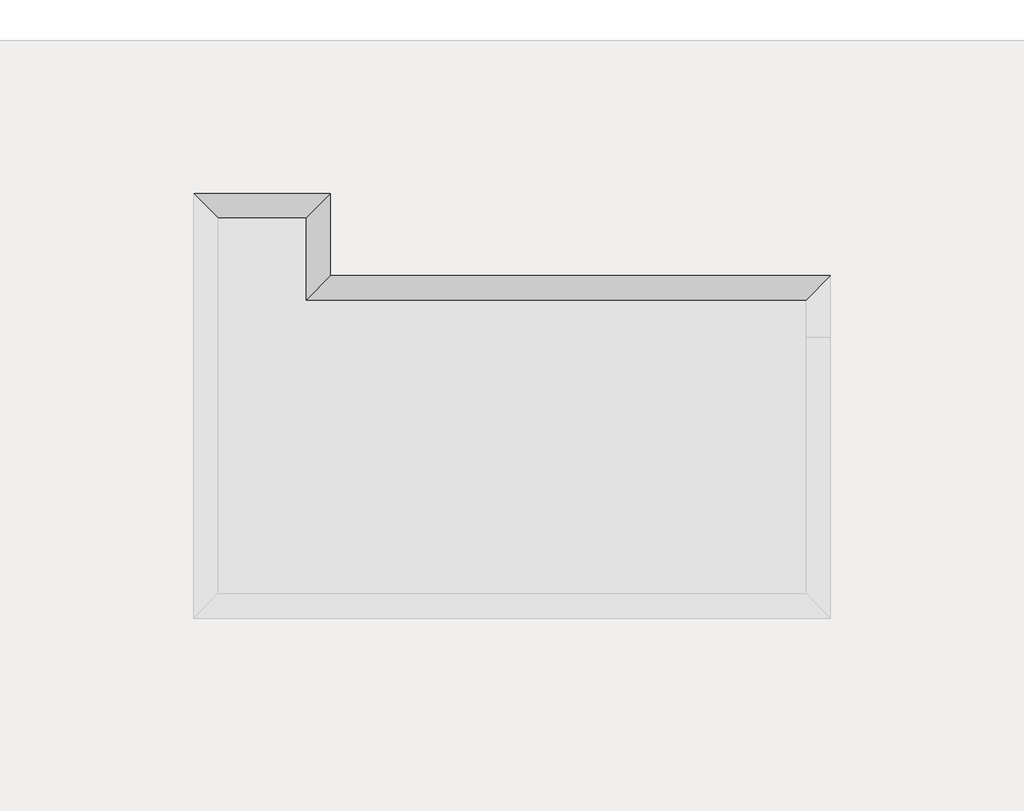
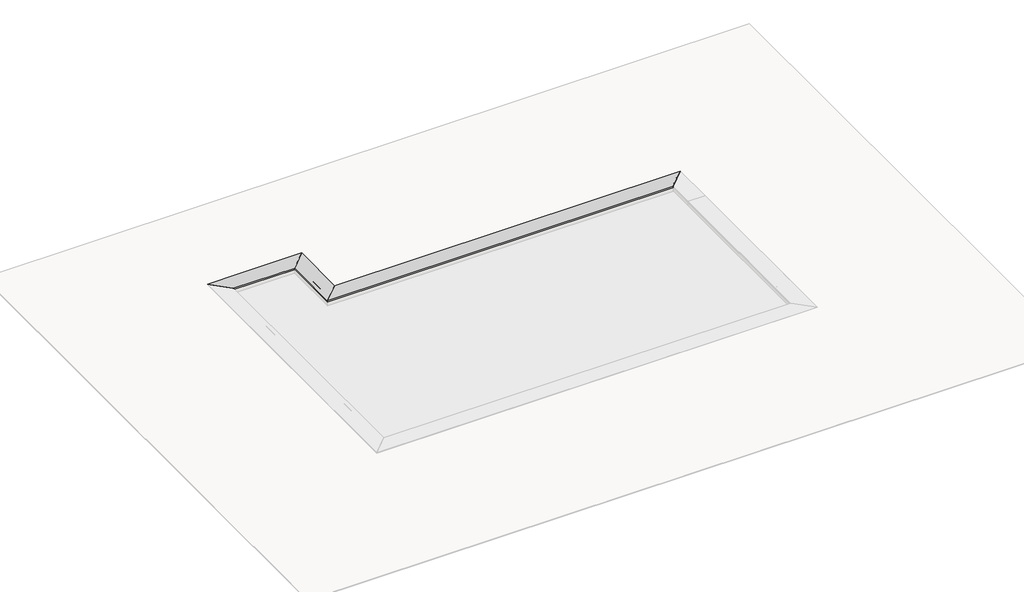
# One storey, part 4 of 5: 6 proxies.
"""IFC4 building model written with IfcOpenShell, lengths in millimetres."""

from ifc_helpers import new_model, si_unit, origin, place, context, project, spatial, faceted_brep, element, save

model = new_model("IFC4")

# Units and contexts
model_context = context("Model", 3, world=origin())
ifc_project = project(units=[si_unit("LENGTHUNIT", "METRE", prefix="MILLI")], contexts=[model_context])

# Site, building, storey
site = spatial("IfcSite", under=ifc_project)
building = spatial("IfcBuilding", under=site)
storey = spatial("IfcBuildingStorey", under=building, Name="EXAGRES_MILAN Series_Pool_Examples", Elevation=0.0)

# Proxies
placement = place(None, origin())
element("IfcBuildingElementProxy", 1, Name="Wall Sweeps", at=placement, inside=storey, context=model_context, shape_type="Brep", body=[
    faceted_brep([(12442.6707532, -9626.7035945, 0.0), (12429.6707532, -9639.7035945, 0.0), (12429.6707532, -9639.7035945, 33.0), (12759.6707532, -9309.7035945, 33.0), (12759.6707532, -9309.7035945, 21.0), (12753.6707532, -9315.7035945, 21.0), (12753.6707532, -9315.7035945, 22.0), (12749.6707532, -9319.7035945, 22.0), (12749.6707532, -9319.7035945, 21.0), (12743.6707532, -9325.7035945, 21.0), (12743.6707532, -9325.7035945, 22.0), (12739.6707532, -9329.7035945, 22.0), (12739.6707532, -9329.7035945, 21.0), (12733.6707532, -9335.7035945, 21.0), (12733.6707532, -9335.7035945, 22.0), (12729.6707532, -9339.7035945, 22.0), (12729.6707532, -9339.7035945, 21.0), (12723.6707532, -9345.7035945, 21.0), (12723.6707532, -9345.7035945, 22.0), (12719.6707532, -9349.7035945, 22.0), (12719.6707532, -9349.7035945, 21.0), (12713.6707532, -9355.7035945, 21.0), (12713.6707532, -9355.7035945, 22.0), (12709.6707532, -9359.7035945, 22.0), (12709.6707532, -9359.7035945, 21.0), (12703.6707532, -9365.7035945, 21.0), (12703.6707532, -9365.7035945, 22.0), (12699.6707532, -9369.7035945, 22.0), (12699.6707532, -9369.7035945, 21.0), (12693.6707532, -9375.7035945, 21.0), (12693.6707532, -9375.7035945, 22.0), (12689.6707532, -9379.7035945, 22.0), (12689.6707532, -9379.7035945, 21.0), (12683.6707532, -9385.7035945, 21.0), (12683.6707532, -9385.7035945, 22.0), (12679.6707532, -9389.7035945, 22.0), (12679.6707532, -9389.7035945, 21.0), (12673.6707532, -9395.7035945, 21.0), (12673.6707532, -9395.7035945, 22.0), (12669.6707532, -9399.7035945, 22.0), (12669.6707532, -9399.7035945, 21.0), (12663.6707532, -9405.7035945, 21.0), (12663.6707532, -9405.7035945, 22.0), (12659.6707532, -9409.7035945, 22.0), (12659.6707532, -9409.7035945, 21.0), (12653.6707532, -9415.7035945, 21.0), (12653.6707532, -9415.7035945, 22.0), (12649.6707532, -9419.7035945, 22.0), (12649.6707532, -9419.7035945, 21.0), (12643.6707532, -9425.7035945, 21.0), (12643.6707532, -9425.7035945, 22.0), (12639.6707532, -9429.7035945, 22.0), (12639.6707532, -9429.7035945, 21.0), (12633.6707532, -9435.7035945, 21.0), (12633.6707532, -9435.7035945, 22.0), (12629.6707532, -9439.7035945, 22.0), (12629.6707532, -9439.7035945, 21.0), (12623.6707532, -9445.7035945, 21.0), (12623.6707532, -9445.7035945, 22.0), (12619.6707532, -9449.7035945, 22.0), (12619.6707532, -9449.7035945, 21.0), (12613.6707532, -9455.7035945, 21.0), (12613.6707532, -9455.7035945, 22.0), (12609.6707532, -9459.7035945, 22.0), (12609.6707532, -9459.7035945, 21.0), (12603.6707532, -9465.7035945, 21.0), (12603.6707532, -9465.7035945, 22.0), (12599.6707532, -9469.7035945, 22.0), (12599.6707532, -9469.7035945, 21.0), (12593.6707532, -9475.7035945, 21.0), (12593.6707532, -9475.7035945, 22.0), (12589.6707532, -9479.7035945, 22.0), (12589.6707532, -9479.7035945, 21.0), (12583.6707532, -9485.7035945, 21.0), (12583.6707532, -9485.7035945, 22.0), (12579.6707532, -9489.7035945, 22.0), (12579.6707532, -9489.7035945, 21.0), (12573.6707532, -9495.7035945, 21.0), (12573.6707532, -9495.7035945, 22.0), (12569.6707532, -9499.7035945, 22.0), (12569.6707532, -9499.7035945, 21.0), (12563.6707532, -9505.7035945, 21.0), (12563.6707532, -9505.7035945, 22.0), (12559.6707532, -9509.7035945, 22.0), (12559.6707532, -9509.7035945, 21.0), (12553.6707532, -9515.7035945, 21.0), (12553.6707532, -9515.7035945, 22.0), (12549.6707532, -9519.7035945, 22.0), (12549.6707532, -9519.7035945, 21.0), (12543.6707532, -9525.7035945, 21.0), (12543.6707532, -9525.7035945, 22.0), (12539.6707532, -9529.7035945, 22.0), (12539.6707532, -9529.7035945, 21.0), (12533.6707532, -9535.7035945, 21.0), (12533.6707532, -9535.7035945, 22.0), (12529.6707532, -9539.7035945, 22.0), (12529.6707532, -9539.7035945, 21.0), (12523.6707532, -9545.7035945, 21.0), (12523.6707532, -9545.7035945, 22.0), (12519.6707532, -9549.7035945, 22.0), (12519.6707532, -9549.7035945, 21.0), (12513.6707532, -9555.7035945, 21.0), (12513.6707532, -9555.7035945, 22.0), (12509.6707532, -9559.7035945, 22.0), (12509.6707532, -9559.7035945, 21.0), (12503.6707532, -9565.7035945, 21.0), (12503.6707532, -9565.7035945, 22.0), (12499.6707532, -9569.7035945, 22.0), (12499.6707532, -9569.7035945, 21.0), (12493.6707532, -9575.7035945, 21.0), (12493.6707532, -9575.7035945, 22.0), (12489.6707532, -9579.7035945, 22.0), (12489.6707532, -9579.7035945, 21.0), (12483.6707532, -9585.7035945, 21.0), (12483.6707532, -9585.7035945, 22.0), (12479.6707532, -9589.7035945, 22.0), (12479.6707532, -9589.7035945, 21.0), (12473.6707532, -9595.7035945, 21.0), (12473.6707532, -9595.7035945, 22.0), (12469.6707532, -9599.7035945, 22.0), (12469.6707532, -9599.7035945, 21.0), (12463.6707532, -9605.7035945, 21.0), (12463.6707532, -9605.7035945, 22.0), (12459.6707532, -9609.7035945, 22.0), (12459.6707532, -9609.7035945, 21.0), (12453.6707532, -9615.7035945, 21.0), (12453.6707532, -9615.7035945, 22.0), (12449.6707532, -9619.7035945, 22.0), (12449.6707532, -9619.7035945, 21.0), (12442.6707532, -9626.7035945, 21.0), (12442.6707532, -9626.7035945, 14.0), (12441.6707532, -9627.7035945, 14.0), (12441.6707532, -9627.7035945, 8.0), (12442.6707532, -9626.7035945, 8.0), (19242.6707532, -9626.7035945, 0.0), (19242.6707532, -9626.7035945, 8.0), (19241.6707532, -9627.7035945, 8.0), (19241.6707532, -9627.7035945, 14.0), (19242.6707532, -9626.7035945, 14.0), (19242.6707532, -9626.7035945, 21.0), (19249.6707532, -9619.7035945, 21.0), (19249.6707532, -9619.7035945, 22.0), (19253.6707532, -9615.7035945, 22.0), (19253.6707532, -9615.7035945, 21.0), (19259.6707532, -9609.7035945, 21.0), (19259.6707532, -9609.7035945, 22.0), (19263.6707532, -9605.7035945, 22.0), (19263.6707532, -9605.7035945, 21.0), (19269.6707532, -9599.7035945, 21.0), (19269.6707532, -9599.7035945, 22.0), (19273.6707532, -9595.7035945, 22.0), (19273.6707532, -9595.7035945, 21.0), (19279.6707532, -9589.7035945, 21.0), (19279.6707532, -9589.7035945, 22.0), (19283.6707532, -9585.7035945, 22.0), (19283.6707532, -9585.7035945, 21.0), (19289.6707532, -9579.7035945, 21.0), (19289.6707532, -9579.7035945, 22.0), (19293.6707532, -9575.7035945, 22.0), (19293.6707532, -9575.7035945, 21.0), (19299.6707532, -9569.7035945, 21.0), (19299.6707532, -9569.7035945, 22.0), (19303.6707532, -9565.7035945, 22.0), (19303.6707532, -9565.7035945, 21.0), (19309.6707532, -9559.7035945, 21.0), (19309.6707532, -9559.7035945, 22.0), (19313.6707532, -9555.7035945, 22.0), (19313.6707532, -9555.7035945, 21.0), (19319.6707532, -9549.7035945, 21.0), (19319.6707532, -9549.7035945, 22.0), (19323.6707532, -9545.7035945, 22.0), (19323.6707532, -9545.7035945, 21.0), (19329.6707532, -9539.7035945, 21.0), (19329.6707532, -9539.7035945, 22.0), (19333.6707532, -9535.7035945, 22.0), (19333.6707532, -9535.7035945, 21.0), (19339.6707532, -9529.7035945, 21.0), (19339.6707532, -9529.7035945, 22.0), (19343.6707532, -9525.7035945, 22.0), (19343.6707532, -9525.7035945, 21.0), (19349.6707532, -9519.7035945, 21.0), (19349.6707532, -9519.7035945, 22.0), (19353.6707532, -9515.7035945, 22.0), (19353.6707532, -9515.7035945, 21.0), (19359.6707532, -9509.7035945, 21.0), (19359.6707532, -9509.7035945, 22.0), (19363.6707532, -9505.7035945, 22.0), (19363.6707532, -9505.7035945, 21.0), (19369.6707532, -9499.7035945, 21.0), (19369.6707532, -9499.7035945, 22.0), (19373.6707532, -9495.7035945, 22.0), (19373.6707532, -9495.7035945, 21.0), (19379.6707532, -9489.7035945, 21.0), (19379.6707532, -9489.7035945, 22.0), (19383.6707532, -9485.7035945, 22.0), (19383.6707532, -9485.7035945, 21.0), (19389.6707532, -9479.7035945, 21.0), (19389.6707532, -9479.7035945, 22.0), (19393.6707532, -9475.7035945, 22.0), (19393.6707532, -9475.7035945, 21.0), (19399.6707532, -9469.7035945, 21.0), (19399.6707532, -9469.7035945, 22.0), (19403.6707532, -9465.7035945, 22.0), (19403.6707532, -9465.7035945, 21.0), (19409.6707532, -9459.7035945, 21.0), (19409.6707532, -9459.7035945, 22.0), (19413.6707532, -9455.7035945, 22.0), (19413.6707532, -9455.7035945, 21.0), (19419.6707532, -9449.7035945, 21.0), (19419.6707532, -9449.7035945, 22.0), (19423.6707532, -9445.7035945, 22.0), (19423.6707532, -9445.7035945, 21.0), (19429.6707532, -9439.7035945, 21.0), (19429.6707532, -9439.7035945, 22.0), (19433.6707532, -9435.7035945, 22.0), (19433.6707532, -9435.7035945, 21.0), (19439.6707532, -9429.7035945, 21.0), (19439.6707532, -9429.7035945, 22.0), (19443.6707532, -9425.7035945, 22.0), (19443.6707532, -9425.7035945, 21.0), (19449.6707532, -9419.7035945, 21.0), (19449.6707532, -9419.7035945, 22.0), (19453.6707532, -9415.7035945, 22.0), (19453.6707532, -9415.7035945, 21.0), (19459.6707532, -9409.7035945, 21.0), (19459.6707532, -9409.7035945, 22.0), (19463.6707532, -9405.7035945, 22.0), (19463.6707532, -9405.7035945, 21.0), (19469.6707532, -9399.7035945, 21.0), (19469.6707532, -9399.7035945, 22.0), (19473.6707532, -9395.7035945, 22.0), (19473.6707532, -9395.7035945, 21.0), (19479.6707532, -9389.7035945, 21.0), (19479.6707532, -9389.7035945, 22.0), (19483.6707532, -9385.7035945, 22.0), (19483.6707532, -9385.7035945, 21.0), (19489.6707532, -9379.7035945, 21.0), (19489.6707532, -9379.7035945, 22.0), (19493.6707532, -9375.7035945, 22.0), (19493.6707532, -9375.7035945, 21.0), (19499.6707532, -9369.7035945, 21.0), (19499.6707532, -9369.7035945, 22.0), (19503.6707532, -9365.7035945, 22.0), (19503.6707532, -9365.7035945, 21.0), (19509.6707532, -9359.7035945, 21.0), (19509.6707532, -9359.7035945, 22.0), (19513.6707532, -9355.7035945, 22.0), (19513.6707532, -9355.7035945, 21.0), (19519.6707532, -9349.7035945, 21.0), (19519.6707532, -9349.7035945, 22.0), (19523.6707532, -9345.7035945, 22.0), (19523.6707532, -9345.7035945, 21.0), (19529.6707532, -9339.7035945, 21.0), (19529.6707532, -9339.7035945, 22.0), (19533.6707532, -9335.7035945, 22.0), (19533.6707532, -9335.7035945, 21.0), (19539.6707532, -9329.7035945, 21.0), (19539.6707532, -9329.7035945, 22.0), (19543.6707532, -9325.7035945, 22.0), (19543.6707532, -9325.7035945, 21.0), (19549.6707532, -9319.7035945, 21.0), (19549.6707532, -9319.7035945, 22.0), (19553.6707532, -9315.7035945, 22.0), (19553.6707532, -9315.7035945, 21.0), (19559.6707532, -9309.7035945, 21.0), (19559.6707532, -9309.7035945, 33.0), (19229.6707532, -9639.7035945, 33.0), (19229.6707532, -9639.7035945, 0.0)], [[[0, 1, 2, 3, 4, 5, 6, 7, 8, 9, 10, 11, 12, 13, 14, 15, 16, 17, 18, 19, 20, 21, 22, 23, 24, 25, 26, 27, 28, 29, 30, 31, 32, 33, 34, 35, 36, 37, 38, 39, 40, 41, 42, 43, 44, 45, 46, 47, 48, 49, 50, 51, 52, 53, 54, 55, 56, 57, 58, 59, 60, 61, 62, 63, 64, 65, 66, 67, 68, 69, 70, 71, 72, 73, 74, 75, 76, 77, 78, 79, 80, 81, 82, 83, 84, 85, 86, 87, 88, 89, 90, 91, 92, 93, 94, 95, 96, 97, 98, 99, 100, 101, 102, 103, 104, 105, 106, 107, 108, 109, 110, 111, 112, 113, 114, 115, 116, 117, 118, 119, 120, 121, 122, 123, 124, 125, 126, 127, 128, 129, 130, 131, 132, 133]], [[134, 135, 136, 137, 138, 139, 140, 141, 142, 143, 144, 145, 146, 147, 148, 149, 150, 151, 152, 153, 154, 155, 156, 157, 158, 159, 160, 161, 162, 163, 164, 165, 166, 167, 168, 169, 170, 171, 172, 173, 174, 175, 176, 177, 178, 179, 180, 181, 182, 183, 184, 185, 186, 187, 188, 189, 190, 191, 192, 193, 194, 195, 196, 197, 198, 199, 200, 201, 202, 203, 204, 205, 206, 207, 208, 209, 210, 211, 212, 213, 214, 215, 216, 217, 218, 219, 220, 221, 222, 223, 224, 225, 226, 227, 228, 229, 230, 231, 232, 233, 234, 235, 236, 237, 238, 239, 240, 241, 242, 243, 244, 245, 246, 247, 248, 249, 250, 251, 252, 253, 254, 255, 256, 257, 258, 259, 260, 261, 262, 263, 264, 265, 266, 267]], [[1, 0, 134, 267]], [[2, 1, 267, 266]], [[3, 2, 266, 265]], [[4, 3, 265, 264]], [[5, 4, 264, 263]], [[6, 5, 263, 262]], [[7, 6, 262, 261]], [[8, 7, 261, 260]], [[9, 8, 260, 259]], [[10, 9, 259, 258]], [[11, 10, 258, 257]], [[12, 11, 257, 256]], [[13, 12, 256, 255]], [[14, 13, 255, 254]], [[15, 14, 254, 253]], [[16, 15, 253, 252]], [[17, 16, 252, 251]], [[18, 17, 251, 250]], [[19, 18, 250, 249]], [[20, 19, 249, 248]], [[21, 20, 248, 247]], [[22, 21, 247, 246]], [[23, 22, 246, 245]], [[24, 23, 245, 244]], [[25, 24, 244, 243]], [[26, 25, 243, 242]], [[27, 26, 242, 241]], [[28, 27, 241, 240]], [[29, 28, 240, 239]], [[30, 29, 239, 238]], [[31, 30, 238, 237]], [[32, 31, 237, 236]], [[33, 32, 236, 235]], [[34, 33, 235, 234]], [[35, 34, 234, 233]], [[36, 35, 233, 232]], [[37, 36, 232, 231]], [[38, 37, 231, 230]], [[39, 38, 230, 229]], [[40, 39, 229, 228]], [[41, 40, 228, 227]], [[42, 41, 227, 226]], [[43, 42, 226, 225]], [[44, 43, 225, 224]], [[45, 44, 224, 223]], [[46, 45, 223, 222]], [[47, 46, 222, 221]], [[48, 47, 221, 220]], [[49, 48, 220, 219]], [[50, 49, 219, 218]], [[51, 50, 218, 217]], [[52, 51, 217, 216]], [[53, 52, 216, 215]], [[54, 53, 215, 214]], [[55, 54, 214, 213]], [[56, 55, 213, 212]], [[57, 56, 212, 211]], [[58, 57, 211, 210]], [[59, 58, 210, 209]], [[60, 59, 209, 208]], [[61, 60, 208, 207]], [[62, 61, 207, 206]], [[63, 62, 206, 205]], [[64, 63, 205, 204]], [[65, 64, 204, 203]], [[66, 65, 203, 202]], [[67, 66, 202, 201]], [[68, 67, 201, 200]], [[69, 68, 200, 199]], [[70, 69, 199, 198]], [[71, 70, 198, 197]], [[72, 71, 197, 196]], [[73, 72, 196, 195]], [[74, 73, 195, 194]], [[75, 74, 194, 193]], [[76, 75, 193, 192]], [[77, 76, 192, 191]], [[78, 77, 191, 190]], [[79, 78, 190, 189]], [[80, 79, 189, 188]], [[81, 80, 188, 187]], [[82, 81, 187, 186]], [[83, 82, 186, 185]], [[84, 83, 185, 184]], [[85, 84, 184, 183]], [[86, 85, 183, 182]], [[87, 86, 182, 181]], [[88, 87, 181, 180]], [[89, 88, 180, 179]], [[90, 89, 179, 178]], [[91, 90, 178, 177]], [[92, 91, 177, 176]], [[93, 92, 176, 175]], [[94, 93, 175, 174]], [[95, 94, 174, 173]], [[96, 95, 173, 172]], [[97, 96, 172, 171]], [[98, 97, 171, 170]], [[99, 98, 170, 169]], [[100, 99, 169, 168]], [[101, 100, 168, 167]], [[102, 101, 167, 166]], [[103, 102, 166, 165]], [[104, 103, 165, 164]], [[105, 104, 164, 163]], [[106, 105, 163, 162]], [[107, 106, 162, 161]], [[108, 107, 161, 160]], [[109, 108, 160, 159]], [[110, 109, 159, 158]], [[111, 110, 158, 157]], [[112, 111, 157, 156]], [[113, 112, 156, 155]], [[114, 113, 155, 154]], [[115, 114, 154, 153]], [[116, 115, 153, 152]], [[117, 116, 152, 151]], [[118, 117, 151, 150]], [[119, 118, 150, 149]], [[120, 119, 149, 148]], [[121, 120, 148, 147]], [[122, 121, 147, 146]], [[123, 122, 146, 145]], [[124, 123, 145, 144]], [[125, 124, 144, 143]], [[126, 125, 143, 142]], [[127, 126, 142, 141]], [[128, 127, 141, 140]], [[129, 128, 140, 139]], [[130, 129, 139, 138]], [[131, 130, 138, 137]], [[132, 131, 137, 136]], [[133, 132, 136, 135]], [[0, 133, 135, 134]]]),
])
element("IfcBuildingElementProxy", 2, Name="Wall Sweeps", at=placement, inside=storey, context=model_context, shape_type="Brep", body=[
    faceted_brep([(10909.6707532, -13959.7035945, -181.26), (11004.6707532, -13864.7035945, -181.26), (11214.6707532, -13654.7035945, -181.26), (11214.6707532, -13654.7035945, 0.0), (11214.6707532, -13654.7035945, 18.74), (10909.6707532, -13959.7035945, 18.74), (10909.6707532, -8199.7035945, -181.26), (10909.6707532, -8199.7035945, 18.74), (11214.6707532, -8504.7035945, 18.74), (11214.6707532, -8504.7035945, 0.0), (11214.6707532, -8504.7035945, -181.26), (11004.6707532, -8294.7035945, -181.26)], [[[0, 1, 2, 3, 4, 5]], [[6, 7, 8, 9, 10, 11]], [[4, 3, 2, 10, 9, 8]], [[2, 1, 0, 6, 11, 10]], [[5, 4, 8, 7]], [[0, 5, 7, 6]]]),
])
element("IfcBuildingElementProxy", 3, Name="Wall Sweeps", at=placement, inside=storey, context=model_context, shape_type="Brep", body=[
    faceted_brep([(12442.6707532, -9626.7035945, 0.0), (12442.6707532, -9626.7035945, 8.0), (12441.6707532, -9627.7035945, 8.0), (12441.6707532, -9627.7035945, 14.0), (12442.6707532, -9626.7035945, 14.0), (12442.6707532, -9626.7035945, 21.0), (12449.6707532, -9619.7035945, 21.0), (12449.6707532, -9619.7035945, 22.0), (12453.6707532, -9615.7035945, 22.0), (12453.6707532, -9615.7035945, 21.0), (12459.6707532, -9609.7035945, 21.0), (12459.6707532, -9609.7035945, 22.0), (12463.6707532, -9605.7035945, 22.0), (12463.6707532, -9605.7035945, 21.0), (12469.6707532, -9599.7035945, 21.0), (12469.6707532, -9599.7035945, 22.0), (12473.6707532, -9595.7035945, 22.0), (12473.6707532, -9595.7035945, 21.0), (12479.6707532, -9589.7035945, 21.0), (12479.6707532, -9589.7035945, 22.0), (12483.6707532, -9585.7035945, 22.0), (12483.6707532, -9585.7035945, 21.0), (12489.6707532, -9579.7035945, 21.0), (12489.6707532, -9579.7035945, 22.0), (12493.6707532, -9575.7035945, 22.0), (12493.6707532, -9575.7035945, 21.0), (12499.6707532, -9569.7035945, 21.0), (12499.6707532, -9569.7035945, 22.0), (12503.6707532, -9565.7035945, 22.0), (12503.6707532, -9565.7035945, 21.0), (12509.6707532, -9559.7035945, 21.0), (12509.6707532, -9559.7035945, 22.0), (12513.6707532, -9555.7035945, 22.0), (12513.6707532, -9555.7035945, 21.0), (12519.6707532, -9549.7035945, 21.0), (12519.6707532, -9549.7035945, 22.0), (12523.6707532, -9545.7035945, 22.0), (12523.6707532, -9545.7035945, 21.0), (12529.6707532, -9539.7035945, 21.0), (12529.6707532, -9539.7035945, 22.0), (12533.6707532, -9535.7035945, 22.0), (12533.6707532, -9535.7035945, 21.0), (12539.6707532, -9529.7035945, 21.0), (12539.6707532, -9529.7035945, 22.0), (12543.6707532, -9525.7035945, 22.0), (12543.6707532, -9525.7035945, 21.0), (12549.6707532, -9519.7035945, 21.0), (12549.6707532, -9519.7035945, 22.0), (12553.6707532, -9515.7035945, 22.0), (12553.6707532, -9515.7035945, 21.0), (12559.6707532, -9509.7035945, 21.0), (12559.6707532, -9509.7035945, 22.0), (12563.6707532, -9505.7035945, 22.0), (12563.6707532, -9505.7035945, 21.0), (12569.6707532, -9499.7035945, 21.0), (12569.6707532, -9499.7035945, 22.0), (12573.6707532, -9495.7035945, 22.0), (12573.6707532, -9495.7035945, 21.0), (12579.6707532, -9489.7035945, 21.0), (12579.6707532, -9489.7035945, 22.0), (12583.6707532, -9485.7035945, 22.0), (12583.6707532, -9485.7035945, 21.0), (12589.6707532, -9479.7035945, 21.0), (12589.6707532, -9479.7035945, 22.0), (12593.6707532, -9475.7035945, 22.0), (12593.6707532, -9475.7035945, 21.0), (12599.6707532, -9469.7035945, 21.0), (12599.6707532, -9469.7035945, 22.0), (12603.6707532, -9465.7035945, 22.0), (12603.6707532, -9465.7035945, 21.0), (12609.6707532, -9459.7035945, 21.0), (12609.6707532, -9459.7035945, 22.0), (12613.6707532, -9455.7035945, 22.0), (12613.6707532, -9455.7035945, 21.0), (12619.6707532, -9449.7035945, 21.0), (12619.6707532, -9449.7035945, 22.0), (12623.6707532, -9445.7035945, 22.0), (12623.6707532, -9445.7035945, 21.0), (12629.6707532, -9439.7035945, 21.0), (12629.6707532, -9439.7035945, 22.0), (12633.6707532, -9435.7035945, 22.0), (12633.6707532, -9435.7035945, 21.0), (12639.6707532, -9429.7035945, 21.0), (12639.6707532, -9429.7035945, 22.0), (12643.6707532, -9425.7035945, 22.0), (12643.6707532, -9425.7035945, 21.0), (12649.6707532, -9419.7035945, 21.0), (12649.6707532, -9419.7035945, 22.0), (12653.6707532, -9415.7035945, 22.0), (12653.6707532, -9415.7035945, 21.0), (12659.6707532, -9409.7035945, 21.0), (12659.6707532, -9409.7035945, 22.0), (12663.6707532, -9405.7035945, 22.0), (12663.6707532, -9405.7035945, 21.0), (12669.6707532, -9399.7035945, 21.0), (12669.6707532, -9399.7035945, 22.0), (12673.6707532, -9395.7035945, 22.0), (12673.6707532, -9395.7035945, 21.0), (12679.6707532, -9389.7035945, 21.0), (12679.6707532, -9389.7035945, 22.0), (12683.6707532, -9385.7035945, 22.0), (12683.6707532, -9385.7035945, 21.0), (12689.6707532, -9379.7035945, 21.0), (12689.6707532, -9379.7035945, 22.0), (12693.6707532, -9375.7035945, 22.0), (12693.6707532, -9375.7035945, 21.0), (12699.6707532, -9369.7035945, 21.0), (12699.6707532, -9369.7035945, 22.0), (12703.6707532, -9365.7035945, 22.0), (12703.6707532, -9365.7035945, 21.0), (12709.6707532, -9359.7035945, 21.0), (12709.6707532, -9359.7035945, 22.0), (12713.6707532, -9355.7035945, 22.0), (12713.6707532, -9355.7035945, 21.0), (12719.6707532, -9349.7035945, 21.0), (12719.6707532, -9349.7035945, 22.0), (12723.6707532, -9345.7035945, 22.0), (12723.6707532, -9345.7035945, 21.0), (12729.6707532, -9339.7035945, 21.0), (12729.6707532, -9339.7035945, 22.0), (12733.6707532, -9335.7035945, 22.0), (12733.6707532, -9335.7035945, 21.0), (12739.6707532, -9329.7035945, 21.0), (12739.6707532, -9329.7035945, 22.0), (12743.6707532, -9325.7035945, 22.0), (12743.6707532, -9325.7035945, 21.0), (12749.6707532, -9319.7035945, 21.0), (12749.6707532, -9319.7035945, 22.0), (12753.6707532, -9315.7035945, 22.0), (12753.6707532, -9315.7035945, 21.0), (12759.6707532, -9309.7035945, 21.0), (12759.6707532, -9309.7035945, 33.0), (12429.6707532, -9639.7035945, 33.0), (12429.6707532, -9639.7035945, 0.0), (12442.6707532, -8506.7035945, 0.0), (12429.6707532, -8519.7035945, 0.0), (12429.6707532, -8519.7035945, 33.0), (12759.6707532, -8189.7035945, 33.0), (12759.6707532, -8189.7035945, 21.0), (12753.6707532, -8195.7035945, 21.0), (12753.6707532, -8195.7035945, 22.0), (12749.6707532, -8199.7035945, 22.0), (12749.6707532, -8199.7035945, 21.0), (12743.6707532, -8205.7035945, 21.0), (12743.6707532, -8205.7035945, 22.0), (12739.6707532, -8209.7035945, 22.0), (12739.6707532, -8209.7035945, 21.0), (12733.6707532, -8215.7035945, 21.0), (12733.6707532, -8215.7035945, 22.0), (12729.6707532, -8219.7035945, 22.0), (12729.6707532, -8219.7035945, 21.0), (12723.6707532, -8225.7035945, 21.0), (12723.6707532, -8225.7035945, 22.0), (12719.6707532, -8229.7035945, 22.0), (12719.6707532, -8229.7035945, 21.0), (12713.6707532, -8235.7035945, 21.0), (12713.6707532, -8235.7035945, 22.0), (12709.6707532, -8239.7035945, 22.0), (12709.6707532, -8239.7035945, 21.0), (12703.6707532, -8245.7035945, 21.0), (12703.6707532, -8245.7035945, 22.0), (12699.6707532, -8249.7035945, 22.0), (12699.6707532, -8249.7035945, 21.0), (12693.6707532, -8255.7035945, 21.0), (12693.6707532, -8255.7035945, 22.0), (12689.6707532, -8259.7035945, 22.0), (12689.6707532, -8259.7035945, 21.0), (12683.6707532, -8265.7035945, 21.0), (12683.6707532, -8265.7035945, 22.0), (12679.6707532, -8269.7035945, 22.0), (12679.6707532, -8269.7035945, 21.0), (12673.6707532, -8275.7035945, 21.0), (12673.6707532, -8275.7035945, 22.0), (12669.6707532, -8279.7035945, 22.0), (12669.6707532, -8279.7035945, 21.0), (12663.6707532, -8285.7035945, 21.0), (12663.6707532, -8285.7035945, 22.0), (12659.6707532, -8289.7035945, 22.0), (12659.6707532, -8289.7035945, 21.0), (12653.6707532, -8295.7035945, 21.0), (12653.6707532, -8295.7035945, 22.0), (12649.6707532, -8299.7035945, 22.0), (12649.6707532, -8299.7035945, 21.0), (12643.6707532, -8305.7035945, 21.0), (12643.6707532, -8305.7035945, 22.0), (12639.6707532, -8309.7035945, 22.0), (12639.6707532, -8309.7035945, 21.0), (12633.6707532, -8315.7035945, 21.0), (12633.6707532, -8315.7035945, 22.0), (12629.6707532, -8319.7035945, 22.0), (12629.6707532, -8319.7035945, 21.0), (12623.6707532, -8325.7035945, 21.0), (12623.6707532, -8325.7035945, 22.0), (12619.6707532, -8329.7035945, 22.0), (12619.6707532, -8329.7035945, 21.0), (12613.6707532, -8335.7035945, 21.0), (12613.6707532, -8335.7035945, 22.0), (12609.6707532, -8339.7035945, 22.0), (12609.6707532, -8339.7035945, 21.0), (12603.6707532, -8345.7035945, 21.0), (12603.6707532, -8345.7035945, 22.0), (12599.6707532, -8349.7035945, 22.0), (12599.6707532, -8349.7035945, 21.0), (12593.6707532, -8355.7035945, 21.0), (12593.6707532, -8355.7035945, 22.0), (12589.6707532, -8359.7035945, 22.0), (12589.6707532, -8359.7035945, 21.0), (12583.6707532, -8365.7035945, 21.0), (12583.6707532, -8365.7035945, 22.0), (12579.6707532, -8369.7035945, 22.0), (12579.6707532, -8369.7035945, 21.0), (12573.6707532, -8375.7035945, 21.0), (12573.6707532, -8375.7035945, 22.0), (12569.6707532, -8379.7035945, 22.0), (12569.6707532, -8379.7035945, 21.0), (12563.6707532, -8385.7035945, 21.0), (12563.6707532, -8385.7035945, 22.0), (12559.6707532, -8389.7035945, 22.0), (12559.6707532, -8389.7035945, 21.0), (12553.6707532, -8395.7035945, 21.0), (12553.6707532, -8395.7035945, 22.0), (12549.6707532, -8399.7035945, 22.0), (12549.6707532, -8399.7035945, 21.0), (12543.6707532, -8405.7035945, 21.0), (12543.6707532, -8405.7035945, 22.0), (12539.6707532, -8409.7035945, 22.0), (12539.6707532, -8409.7035945, 21.0), (12533.6707532, -8415.7035945, 21.0), (12533.6707532, -8415.7035945, 22.0), (12529.6707532, -8419.7035945, 22.0), (12529.6707532, -8419.7035945, 21.0), (12523.6707532, -8425.7035945, 21.0), (12523.6707532, -8425.7035945, 22.0), (12519.6707532, -8429.7035945, 22.0), (12519.6707532, -8429.7035945, 21.0), (12513.6707532, -8435.7035945, 21.0), (12513.6707532, -8435.7035945, 22.0), (12509.6707532, -8439.7035945, 22.0), (12509.6707532, -8439.7035945, 21.0), (12503.6707532, -8445.7035945, 21.0), (12503.6707532, -8445.7035945, 22.0), (12499.6707532, -8449.7035945, 22.0), (12499.6707532, -8449.7035945, 21.0), (12493.6707532, -8455.7035945, 21.0), (12493.6707532, -8455.7035945, 22.0), (12489.6707532, -8459.7035945, 22.0), (12489.6707532, -8459.7035945, 21.0), (12483.6707532, -8465.7035945, 21.0), (12483.6707532, -8465.7035945, 22.0), (12479.6707532, -8469.7035945, 22.0), (12479.6707532, -8469.7035945, 21.0), (12473.6707532, -8475.7035945, 21.0), (12473.6707532, -8475.7035945, 22.0), (12469.6707532, -8479.7035945, 22.0), (12469.6707532, -8479.7035945, 21.0), (12463.6707532, -8485.7035945, 21.0), (12463.6707532, -8485.7035945, 22.0), (12459.6707532, -8489.7035945, 22.0), (12459.6707532, -8489.7035945, 21.0), (12453.6707532, -8495.7035945, 21.0), (12453.6707532, -8495.7035945, 22.0), (12449.6707532, -8499.7035945, 22.0), (12449.6707532, -8499.7035945, 21.0), (12442.6707532, -8506.7035945, 21.0), (12442.6707532, -8506.7035945, 14.0), (12441.6707532, -8507.7035945, 14.0), (12441.6707532, -8507.7035945, 8.0), (12442.6707532, -8506.7035945, 8.0)], [[[0, 1, 2, 3, 4, 5, 6, 7, 8, 9, 10, 11, 12, 13, 14, 15, 16, 17, 18, 19, 20, 21, 22, 23, 24, 25, 26, 27, 28, 29, 30, 31, 32, 33, 34, 35, 36, 37, 38, 39, 40, 41, 42, 43, 44, 45, 46, 47, 48, 49, 50, 51, 52, 53, 54, 55, 56, 57, 58, 59, 60, 61, 62, 63, 64, 65, 66, 67, 68, 69, 70, 71, 72, 73, 74, 75, 76, 77, 78, 79, 80, 81, 82, 83, 84, 85, 86, 87, 88, 89, 90, 91, 92, 93, 94, 95, 96, 97, 98, 99, 100, 101, 102, 103, 104, 105, 106, 107, 108, 109, 110, 111, 112, 113, 114, 115, 116, 117, 118, 119, 120, 121, 122, 123, 124, 125, 126, 127, 128, 129, 130, 131, 132, 133]], [[134, 135, 136, 137, 138, 139, 140, 141, 142, 143, 144, 145, 146, 147, 148, 149, 150, 151, 152, 153, 154, 155, 156, 157, 158, 159, 160, 161, 162, 163, 164, 165, 166, 167, 168, 169, 170, 171, 172, 173, 174, 175, 176, 177, 178, 179, 180, 181, 182, 183, 184, 185, 186, 187, 188, 189, 190, 191, 192, 193, 194, 195, 196, 197, 198, 199, 200, 201, 202, 203, 204, 205, 206, 207, 208, 209, 210, 211, 212, 213, 214, 215, 216, 217, 218, 219, 220, 221, 222, 223, 224, 225, 226, 227, 228, 229, 230, 231, 232, 233, 234, 235, 236, 237, 238, 239, 240, 241, 242, 243, 244, 245, 246, 247, 248, 249, 250, 251, 252, 253, 254, 255, 256, 257, 258, 259, 260, 261, 262, 263, 264, 265, 266, 267]], [[1, 0, 134, 267]], [[2, 1, 267, 266]], [[3, 2, 266, 265]], [[4, 3, 265, 264]], [[5, 4, 264, 263]], [[6, 5, 263, 262]], [[7, 6, 262, 261]], [[8, 7, 261, 260]], [[9, 8, 260, 259]], [[10, 9, 259, 258]], [[11, 10, 258, 257]], [[12, 11, 257, 256]], [[13, 12, 256, 255]], [[14, 13, 255, 254]], [[15, 14, 254, 253]], [[16, 15, 253, 252]], [[17, 16, 252, 251]], [[18, 17, 251, 250]], [[19, 18, 250, 249]], [[20, 19, 249, 248]], [[21, 20, 248, 247]], [[22, 21, 247, 246]], [[23, 22, 246, 245]], [[24, 23, 245, 244]], [[25, 24, 244, 243]], [[26, 25, 243, 242]], [[27, 26, 242, 241]], [[28, 27, 241, 240]], [[29, 28, 240, 239]], [[30, 29, 239, 238]], [[31, 30, 238, 237]], [[32, 31, 237, 236]], [[33, 32, 236, 235]], [[34, 33, 235, 234]], [[35, 34, 234, 233]], [[36, 35, 233, 232]], [[37, 36, 232, 231]], [[38, 37, 231, 230]], [[39, 38, 230, 229]], [[40, 39, 229, 228]], [[41, 40, 228, 227]], [[42, 41, 227, 226]], [[43, 42, 226, 225]], [[44, 43, 225, 224]], [[45, 44, 224, 223]], [[46, 45, 223, 222]], [[47, 46, 222, 221]], [[48, 47, 221, 220]], [[49, 48, 220, 219]], [[50, 49, 219, 218]], [[51, 50, 218, 217]], [[52, 51, 217, 216]], [[53, 52, 216, 215]], [[54, 53, 215, 214]], [[55, 54, 214, 213]], [[56, 55, 213, 212]], [[57, 56, 212, 211]], [[58, 57, 211, 210]], [[59, 58, 210, 209]], [[60, 59, 209, 208]], [[61, 60, 208, 207]], [[62, 61, 207, 206]], [[63, 62, 206, 205]], [[64, 63, 205, 204]], [[65, 64, 204, 203]], [[66, 65, 203, 202]], [[67, 66, 202, 201]], [[68, 67, 201, 200]], [[69, 68, 200, 199]], [[70, 69, 199, 198]], [[71, 70, 198, 197]], [[72, 71, 197, 196]], [[73, 72, 196, 195]], [[74, 73, 195, 194]], [[75, 74, 194, 193]], [[76, 75, 193, 192]], [[77, 76, 192, 191]], [[78, 77, 191, 190]], [[79, 78, 190, 189]], [[80, 79, 189, 188]], [[81, 80, 188, 187]], [[82, 81, 187, 186]], [[83, 82, 186, 185]], [[84, 83, 185, 184]], [[85, 84, 184, 183]], [[86, 85, 183, 182]], [[87, 86, 182, 181]], [[88, 87, 181, 180]], [[89, 88, 180, 179]], [[90, 89, 179, 178]], [[91, 90, 178, 177]], [[92, 91, 177, 176]], [[93, 92, 176, 175]], [[94, 93, 175, 174]], [[95, 94, 174, 173]], [[96, 95, 173, 172]], [[97, 96, 172, 171]], [[98, 97, 171, 170]], [[99, 98, 170, 169]], [[100, 99, 169, 168]], [[101, 100, 168, 167]], [[102, 101, 167, 166]], [[103, 102, 166, 165]], [[104, 103, 165, 164]], [[105, 104, 164, 163]], [[106, 105, 163, 162]], [[107, 106, 162, 161]], [[108, 107, 161, 160]], [[109, 108, 160, 159]], [[110, 109, 159, 158]], [[111, 110, 158, 157]], [[112, 111, 157, 156]], [[113, 112, 156, 155]], [[114, 113, 155, 154]], [[115, 114, 154, 153]], [[116, 115, 153, 152]], [[117, 116, 152, 151]], [[118, 117, 151, 150]], [[119, 118, 150, 149]], [[120, 119, 149, 148]], [[121, 120, 148, 147]], [[122, 121, 147, 146]], [[123, 122, 146, 145]], [[124, 123, 145, 144]], [[125, 124, 144, 143]], [[126, 125, 143, 142]], [[127, 126, 142, 141]], [[128, 127, 141, 140]], [[129, 128, 140, 139]], [[130, 129, 139, 138]], [[131, 130, 138, 137]], [[132, 131, 137, 136]], [[133, 132, 136, 135]], [[0, 133, 135, 134]]]),
])
element("IfcBuildingElementProxy", 4, Name="Wall Sweeps", at=placement, inside=storey, context=model_context, shape_type="Brep", body=[
    faceted_brep([(12749.6707532, -9319.7035945, -181.26), (12749.6707532, -9319.7035945, 18.74), (12444.6707532, -9624.7035945, 18.74), (12444.6707532, -9624.7035945, 0.0), (12444.6707532, -9624.7035945, -181.26), (12654.6707532, -9414.7035945, -181.26), (12749.6707532, -8199.7035945, -181.26), (12654.6707532, -8294.7035945, -181.26), (12444.6707532, -8504.7035945, -181.26), (12444.6707532, -8504.7035945, 0.0), (12444.6707532, -8504.7035945, 18.74), (12749.6707532, -8199.7035945, 18.74)], [[[0, 1, 2, 3, 4, 5]], [[6, 7, 8, 9, 10, 11]], [[0, 5, 4, 8, 7, 6]], [[4, 3, 2, 10, 9, 8]], [[1, 0, 6, 11]], [[2, 1, 11, 10]]]),
])
element("IfcBuildingElementProxy", 5, Name="Wall Sweeps", at=placement, inside=storey, context=model_context, shape_type="Brep", body=[
    faceted_brep([(11216.6707532, -8506.7035945, 0.0), (11229.6707532, -8519.7035945, 0.0), (11229.6707532, -8519.7035945, 33.0), (10899.6707532, -8189.7035945, 33.0), (10899.6707532, -8189.7035945, 21.0), (10905.6707532, -8195.7035945, 21.0), (10905.6707532, -8195.7035945, 22.0), (10909.6707532, -8199.7035945, 22.0), (10909.6707532, -8199.7035945, 21.0), (10915.6707532, -8205.7035945, 21.0), (10915.6707532, -8205.7035945, 22.0), (10919.6707532, -8209.7035945, 22.0), (10919.6707532, -8209.7035945, 21.0), (10925.6707532, -8215.7035945, 21.0), (10925.6707532, -8215.7035945, 22.0), (10929.6707532, -8219.7035945, 22.0), (10929.6707532, -8219.7035945, 21.0), (10935.6707532, -8225.7035945, 21.0), (10935.6707532, -8225.7035945, 22.0), (10939.6707532, -8229.7035945, 22.0), (10939.6707532, -8229.7035945, 21.0), (10945.6707532, -8235.7035945, 21.0), (10945.6707532, -8235.7035945, 22.0), (10949.6707532, -8239.7035945, 22.0), (10949.6707532, -8239.7035945, 21.0), (10955.6707532, -8245.7035945, 21.0), (10955.6707532, -8245.7035945, 22.0), (10959.6707532, -8249.7035945, 22.0), (10959.6707532, -8249.7035945, 21.0), (10965.6707532, -8255.7035945, 21.0), (10965.6707532, -8255.7035945, 22.0), (10969.6707532, -8259.7035945, 22.0), (10969.6707532, -8259.7035945, 21.0), (10975.6707532, -8265.7035945, 21.0), (10975.6707532, -8265.7035945, 22.0), (10979.6707532, -8269.7035945, 22.0), (10979.6707532, -8269.7035945, 21.0), (10985.6707532, -8275.7035945, 21.0), (10985.6707532, -8275.7035945, 22.0), (10989.6707532, -8279.7035945, 22.0), (10989.6707532, -8279.7035945, 21.0), (10995.6707532, -8285.7035945, 21.0), (10995.6707532, -8285.7035945, 22.0), (10999.6707532, -8289.7035945, 22.0), (10999.6707532, -8289.7035945, 21.0), (11005.6707532, -8295.7035945, 21.0), (11005.6707532, -8295.7035945, 22.0), (11009.6707532, -8299.7035945, 22.0), (11009.6707532, -8299.7035945, 21.0), (11015.6707532, -8305.7035945, 21.0), (11015.6707532, -8305.7035945, 22.0), (11019.6707532, -8309.7035945, 22.0), (11019.6707532, -8309.7035945, 21.0), (11025.6707532, -8315.7035945, 21.0), (11025.6707532, -8315.7035945, 22.0), (11029.6707532, -8319.7035945, 22.0), (11029.6707532, -8319.7035945, 21.0), (11035.6707532, -8325.7035945, 21.0), (11035.6707532, -8325.7035945, 22.0), (11039.6707532, -8329.7035945, 22.0), (11039.6707532, -8329.7035945, 21.0), (11045.6707532, -8335.7035945, 21.0), (11045.6707532, -8335.7035945, 22.0), (11049.6707532, -8339.7035945, 22.0), (11049.6707532, -8339.7035945, 21.0), (11055.6707532, -8345.7035945, 21.0), (11055.6707532, -8345.7035945, 22.0), (11059.6707532, -8349.7035945, 22.0), (11059.6707532, -8349.7035945, 21.0), (11065.6707532, -8355.7035945, 21.0), (11065.6707532, -8355.7035945, 22.0), (11069.6707532, -8359.7035945, 22.0), (11069.6707532, -8359.7035945, 21.0), (11075.6707532, -8365.7035945, 21.0), (11075.6707532, -8365.7035945, 22.0), (11079.6707532, -8369.7035945, 22.0), (11079.6707532, -8369.7035945, 21.0), (11085.6707532, -8375.7035945, 21.0), (11085.6707532, -8375.7035945, 22.0), (11089.6707532, -8379.7035945, 22.0), (11089.6707532, -8379.7035945, 21.0), (11095.6707532, -8385.7035945, 21.0), (11095.6707532, -8385.7035945, 22.0), (11099.6707532, -8389.7035945, 22.0), (11099.6707532, -8389.7035945, 21.0), (11105.6707532, -8395.7035945, 21.0), (11105.6707532, -8395.7035945, 22.0), (11109.6707532, -8399.7035945, 22.0), (11109.6707532, -8399.7035945, 21.0), (11115.6707532, -8405.7035945, 21.0), (11115.6707532, -8405.7035945, 22.0), (11119.6707532, -8409.7035945, 22.0), (11119.6707532, -8409.7035945, 21.0), (11125.6707532, -8415.7035945, 21.0), (11125.6707532, -8415.7035945, 22.0), (11129.6707532, -8419.7035945, 22.0), (11129.6707532, -8419.7035945, 21.0), (11135.6707532, -8425.7035945, 21.0), (11135.6707532, -8425.7035945, 22.0), (11139.6707532, -8429.7035945, 22.0), (11139.6707532, -8429.7035945, 21.0), (11145.6707532, -8435.7035945, 21.0), (11145.6707532, -8435.7035945, 22.0), (11149.6707532, -8439.7035945, 22.0), (11149.6707532, -8439.7035945, 21.0), (11155.6707532, -8445.7035945, 21.0), (11155.6707532, -8445.7035945, 22.0), (11159.6707532, -8449.7035945, 22.0), (11159.6707532, -8449.7035945, 21.0), (11165.6707532, -8455.7035945, 21.0), (11165.6707532, -8455.7035945, 22.0), (11169.6707532, -8459.7035945, 22.0), (11169.6707532, -8459.7035945, 21.0), (11175.6707532, -8465.7035945, 21.0), (11175.6707532, -8465.7035945, 22.0), (11179.6707532, -8469.7035945, 22.0), (11179.6707532, -8469.7035945, 21.0), (11185.6707532, -8475.7035945, 21.0), (11185.6707532, -8475.7035945, 22.0), (11189.6707532, -8479.7035945, 22.0), (11189.6707532, -8479.7035945, 21.0), (11195.6707532, -8485.7035945, 21.0), (11195.6707532, -8485.7035945, 22.0), (11199.6707532, -8489.7035945, 22.0), (11199.6707532, -8489.7035945, 21.0), (11205.6707532, -8495.7035945, 21.0), (11205.6707532, -8495.7035945, 22.0), (11209.6707532, -8499.7035945, 22.0), (11209.6707532, -8499.7035945, 21.0), (11216.6707532, -8506.7035945, 21.0), (11216.6707532, -8506.7035945, 14.0), (11217.6707532, -8507.7035945, 14.0), (11217.6707532, -8507.7035945, 8.0), (11216.6707532, -8506.7035945, 8.0), (12442.6707532, -8506.7035945, 0.0), (12442.6707532, -8506.7035945, 8.0), (12441.6707532, -8507.7035945, 8.0), (12441.6707532, -8507.7035945, 14.0), (12442.6707532, -8506.7035945, 14.0), (12442.6707532, -8506.7035945, 21.0), (12449.6707532, -8499.7035945, 21.0), (12449.6707532, -8499.7035945, 22.0), (12453.6707532, -8495.7035945, 22.0), (12453.6707532, -8495.7035945, 21.0), (12459.6707532, -8489.7035945, 21.0), (12459.6707532, -8489.7035945, 22.0), (12463.6707532, -8485.7035945, 22.0), (12463.6707532, -8485.7035945, 21.0), (12469.6707532, -8479.7035945, 21.0), (12469.6707532, -8479.7035945, 22.0), (12473.6707532, -8475.7035945, 22.0), (12473.6707532, -8475.7035945, 21.0), (12479.6707532, -8469.7035945, 21.0), (12479.6707532, -8469.7035945, 22.0), (12483.6707532, -8465.7035945, 22.0), (12483.6707532, -8465.7035945, 21.0), (12489.6707532, -8459.7035945, 21.0), (12489.6707532, -8459.7035945, 22.0), (12493.6707532, -8455.7035945, 22.0), (12493.6707532, -8455.7035945, 21.0), (12499.6707532, -8449.7035945, 21.0), (12499.6707532, -8449.7035945, 22.0), (12503.6707532, -8445.7035945, 22.0), (12503.6707532, -8445.7035945, 21.0), (12509.6707532, -8439.7035945, 21.0), (12509.6707532, -8439.7035945, 22.0), (12513.6707532, -8435.7035945, 22.0), (12513.6707532, -8435.7035945, 21.0), (12519.6707532, -8429.7035945, 21.0), (12519.6707532, -8429.7035945, 22.0), (12523.6707532, -8425.7035945, 22.0), (12523.6707532, -8425.7035945, 21.0), (12529.6707532, -8419.7035945, 21.0), (12529.6707532, -8419.7035945, 22.0), (12533.6707532, -8415.7035945, 22.0), (12533.6707532, -8415.7035945, 21.0), (12539.6707532, -8409.7035945, 21.0), (12539.6707532, -8409.7035945, 22.0), (12543.6707532, -8405.7035945, 22.0), (12543.6707532, -8405.7035945, 21.0), (12549.6707532, -8399.7035945, 21.0), (12549.6707532, -8399.7035945, 22.0), (12553.6707532, -8395.7035945, 22.0), (12553.6707532, -8395.7035945, 21.0), (12559.6707532, -8389.7035945, 21.0), (12559.6707532, -8389.7035945, 22.0), (12563.6707532, -8385.7035945, 22.0), (12563.6707532, -8385.7035945, 21.0), (12569.6707532, -8379.7035945, 21.0), (12569.6707532, -8379.7035945, 22.0), (12573.6707532, -8375.7035945, 22.0), (12573.6707532, -8375.7035945, 21.0), (12579.6707532, -8369.7035945, 21.0), (12579.6707532, -8369.7035945, 22.0), (12583.6707532, -8365.7035945, 22.0), (12583.6707532, -8365.7035945, 21.0), (12589.6707532, -8359.7035945, 21.0), (12589.6707532, -8359.7035945, 22.0), (12593.6707532, -8355.7035945, 22.0), (12593.6707532, -8355.7035945, 21.0), (12599.6707532, -8349.7035945, 21.0), (12599.6707532, -8349.7035945, 22.0), (12603.6707532, -8345.7035945, 22.0), (12603.6707532, -8345.7035945, 21.0), (12609.6707532, -8339.7035945, 21.0), (12609.6707532, -8339.7035945, 22.0), (12613.6707532, -8335.7035945, 22.0), (12613.6707532, -8335.7035945, 21.0), (12619.6707532, -8329.7035945, 21.0), (12619.6707532, -8329.7035945, 22.0), (12623.6707532, -8325.7035945, 22.0), (12623.6707532, -8325.7035945, 21.0), (12629.6707532, -8319.7035945, 21.0), (12629.6707532, -8319.7035945, 22.0), (12633.6707532, -8315.7035945, 22.0), (12633.6707532, -8315.7035945, 21.0), (12639.6707532, -8309.7035945, 21.0), (12639.6707532, -8309.7035945, 22.0), (12643.6707532, -8305.7035945, 22.0), (12643.6707532, -8305.7035945, 21.0), (12649.6707532, -8299.7035945, 21.0), (12649.6707532, -8299.7035945, 22.0), (12653.6707532, -8295.7035945, 22.0), (12653.6707532, -8295.7035945, 21.0), (12659.6707532, -8289.7035945, 21.0), (12659.6707532, -8289.7035945, 22.0), (12663.6707532, -8285.7035945, 22.0), (12663.6707532, -8285.7035945, 21.0), (12669.6707532, -8279.7035945, 21.0), (12669.6707532, -8279.7035945, 22.0), (12673.6707532, -8275.7035945, 22.0), (12673.6707532, -8275.7035945, 21.0), (12679.6707532, -8269.7035945, 21.0), (12679.6707532, -8269.7035945, 22.0), (12683.6707532, -8265.7035945, 22.0), (12683.6707532, -8265.7035945, 21.0), (12689.6707532, -8259.7035945, 21.0), (12689.6707532, -8259.7035945, 22.0), (12693.6707532, -8255.7035945, 22.0), (12693.6707532, -8255.7035945, 21.0), (12699.6707532, -8249.7035945, 21.0), (12699.6707532, -8249.7035945, 22.0), (12703.6707532, -8245.7035945, 22.0), (12703.6707532, -8245.7035945, 21.0), (12709.6707532, -8239.7035945, 21.0), (12709.6707532, -8239.7035945, 22.0), (12713.6707532, -8235.7035945, 22.0), (12713.6707532, -8235.7035945, 21.0), (12719.6707532, -8229.7035945, 21.0), (12719.6707532, -8229.7035945, 22.0), (12723.6707532, -8225.7035945, 22.0), (12723.6707532, -8225.7035945, 21.0), (12729.6707532, -8219.7035945, 21.0), (12729.6707532, -8219.7035945, 22.0), (12733.6707532, -8215.7035945, 22.0), (12733.6707532, -8215.7035945, 21.0), (12739.6707532, -8209.7035945, 21.0), (12739.6707532, -8209.7035945, 22.0), (12743.6707532, -8205.7035945, 22.0), (12743.6707532, -8205.7035945, 21.0), (12749.6707532, -8199.7035945, 21.0), (12749.6707532, -8199.7035945, 22.0), (12753.6707532, -8195.7035945, 22.0), (12753.6707532, -8195.7035945, 21.0), (12759.6707532, -8189.7035945, 21.0), (12759.6707532, -8189.7035945, 33.0), (12429.6707532, -8519.7035945, 33.0), (12429.6707532, -8519.7035945, 0.0)], [[[0, 1, 2, 3, 4, 5, 6, 7, 8, 9, 10, 11, 12, 13, 14, 15, 16, 17, 18, 19, 20, 21, 22, 23, 24, 25, 26, 27, 28, 29, 30, 31, 32, 33, 34, 35, 36, 37, 38, 39, 40, 41, 42, 43, 44, 45, 46, 47, 48, 49, 50, 51, 52, 53, 54, 55, 56, 57, 58, 59, 60, 61, 62, 63, 64, 65, 66, 67, 68, 69, 70, 71, 72, 73, 74, 75, 76, 77, 78, 79, 80, 81, 82, 83, 84, 85, 86, 87, 88, 89, 90, 91, 92, 93, 94, 95, 96, 97, 98, 99, 100, 101, 102, 103, 104, 105, 106, 107, 108, 109, 110, 111, 112, 113, 114, 115, 116, 117, 118, 119, 120, 121, 122, 123, 124, 125, 126, 127, 128, 129, 130, 131, 132, 133]], [[134, 135, 136, 137, 138, 139, 140, 141, 142, 143, 144, 145, 146, 147, 148, 149, 150, 151, 152, 153, 154, 155, 156, 157, 158, 159, 160, 161, 162, 163, 164, 165, 166, 167, 168, 169, 170, 171, 172, 173, 174, 175, 176, 177, 178, 179, 180, 181, 182, 183, 184, 185, 186, 187, 188, 189, 190, 191, 192, 193, 194, 195, 196, 197, 198, 199, 200, 201, 202, 203, 204, 205, 206, 207, 208, 209, 210, 211, 212, 213, 214, 215, 216, 217, 218, 219, 220, 221, 222, 223, 224, 225, 226, 227, 228, 229, 230, 231, 232, 233, 234, 235, 236, 237, 238, 239, 240, 241, 242, 243, 244, 245, 246, 247, 248, 249, 250, 251, 252, 253, 254, 255, 256, 257, 258, 259, 260, 261, 262, 263, 264, 265, 266, 267]], [[1, 0, 134, 267]], [[2, 1, 267, 266]], [[3, 2, 266, 265]], [[4, 3, 265, 264]], [[5, 4, 264, 263]], [[6, 5, 263, 262]], [[7, 6, 262, 261]], [[8, 7, 261, 260]], [[9, 8, 260, 259]], [[10, 9, 259, 258]], [[11, 10, 258, 257]], [[12, 11, 257, 256]], [[13, 12, 256, 255]], [[14, 13, 255, 254]], [[15, 14, 254, 253]], [[16, 15, 253, 252]], [[17, 16, 252, 251]], [[18, 17, 251, 250]], [[19, 18, 250, 249]], [[20, 19, 249, 248]], [[21, 20, 248, 247]], [[22, 21, 247, 246]], [[23, 22, 246, 245]], [[24, 23, 245, 244]], [[25, 24, 244, 243]], [[26, 25, 243, 242]], [[27, 26, 242, 241]], [[28, 27, 241, 240]], [[29, 28, 240, 239]], [[30, 29, 239, 238]], [[31, 30, 238, 237]], [[32, 31, 237, 236]], [[33, 32, 236, 235]], [[34, 33, 235, 234]], [[35, 34, 234, 233]], [[36, 35, 233, 232]], [[37, 36, 232, 231]], [[38, 37, 231, 230]], [[39, 38, 230, 229]], [[40, 39, 229, 228]], [[41, 40, 228, 227]], [[42, 41, 227, 226]], [[43, 42, 226, 225]], [[44, 43, 225, 224]], [[45, 44, 224, 223]], [[46, 45, 223, 222]], [[47, 46, 222, 221]], [[48, 47, 221, 220]], [[49, 48, 220, 219]], [[50, 49, 219, 218]], [[51, 50, 218, 217]], [[52, 51, 217, 216]], [[53, 52, 216, 215]], [[54, 53, 215, 214]], [[55, 54, 214, 213]], [[56, 55, 213, 212]], [[57, 56, 212, 211]], [[58, 57, 211, 210]], [[59, 58, 210, 209]], [[60, 59, 209, 208]], [[61, 60, 208, 207]], [[62, 61, 207, 206]], [[63, 62, 206, 205]], [[64, 63, 205, 204]], [[65, 64, 204, 203]], [[66, 65, 203, 202]], [[67, 66, 202, 201]], [[68, 67, 201, 200]], [[69, 68, 200, 199]], [[70, 69, 199, 198]], [[71, 70, 198, 197]], [[72, 71, 197, 196]], [[73, 72, 196, 195]], [[74, 73, 195, 194]], [[75, 74, 194, 193]], [[76, 75, 193, 192]], [[77, 76, 192, 191]], [[78, 77, 191, 190]], [[79, 78, 190, 189]], [[80, 79, 189, 188]], [[81, 80, 188, 187]], [[82, 81, 187, 186]], [[83, 82, 186, 185]], [[84, 83, 185, 184]], [[85, 84, 184, 183]], [[86, 85, 183, 182]], [[87, 86, 182, 181]], [[88, 87, 181, 180]], [[89, 88, 180, 179]], [[90, 89, 179, 178]], [[91, 90, 178, 177]], [[92, 91, 177, 176]], [[93, 92, 176, 175]], [[94, 93, 175, 174]], [[95, 94, 174, 173]], [[96, 95, 173, 172]], [[97, 96, 172, 171]], [[98, 97, 171, 170]], [[99, 98, 170, 169]], [[100, 99, 169, 168]], [[101, 100, 168, 167]], [[102, 101, 167, 166]], [[103, 102, 166, 165]], [[104, 103, 165, 164]], [[105, 104, 164, 163]], [[106, 105, 163, 162]], [[107, 106, 162, 161]], [[108, 107, 161, 160]], [[109, 108, 160, 159]], [[110, 109, 159, 158]], [[111, 110, 158, 157]], [[112, 111, 157, 156]], [[113, 112, 156, 155]], [[114, 113, 155, 154]], [[115, 114, 154, 153]], [[116, 115, 153, 152]], [[117, 116, 152, 151]], [[118, 117, 151, 150]], [[119, 118, 150, 149]], [[120, 119, 149, 148]], [[121, 120, 148, 147]], [[122, 121, 147, 146]], [[123, 122, 146, 145]], [[124, 123, 145, 144]], [[125, 124, 144, 143]], [[126, 125, 143, 142]], [[127, 126, 142, 141]], [[128, 127, 141, 140]], [[129, 128, 140, 139]], [[130, 129, 139, 138]], [[131, 130, 138, 137]], [[132, 131, 137, 136]], [[133, 132, 136, 135]], [[0, 133, 135, 134]]]),
])
element("IfcBuildingElementProxy", 6, Name="Wall Sweeps", at=placement, inside=storey, context=model_context, shape_type="Brep", body=[
    faceted_brep([(10909.6707532, -8199.7035945, -181.26), (11004.6707532, -8294.7035945, -181.26), (11214.6707532, -8504.7035945, -181.26), (11214.6707532, -8504.7035945, 0.0), (11214.6707532, -8504.7035945, 18.74), (10909.6707532, -8199.7035945, 18.74), (12749.6707532, -8199.7035945, -181.26), (12749.6707532, -8199.7035945, 18.74), (12444.6707532, -8504.7035945, 18.74), (12444.6707532, -8504.7035945, 0.0), (12444.6707532, -8504.7035945, -181.26), (12654.6707532, -8294.7035945, -181.26)], [[[0, 1, 2, 3, 4, 5]], [[6, 7, 8, 9, 10, 11]], [[4, 3, 2, 10, 9, 8]], [[2, 1, 0, 6, 11, 10]], [[5, 4, 8, 7]], [[0, 5, 7, 6]]]),
])

save(model, "model.ifc")
